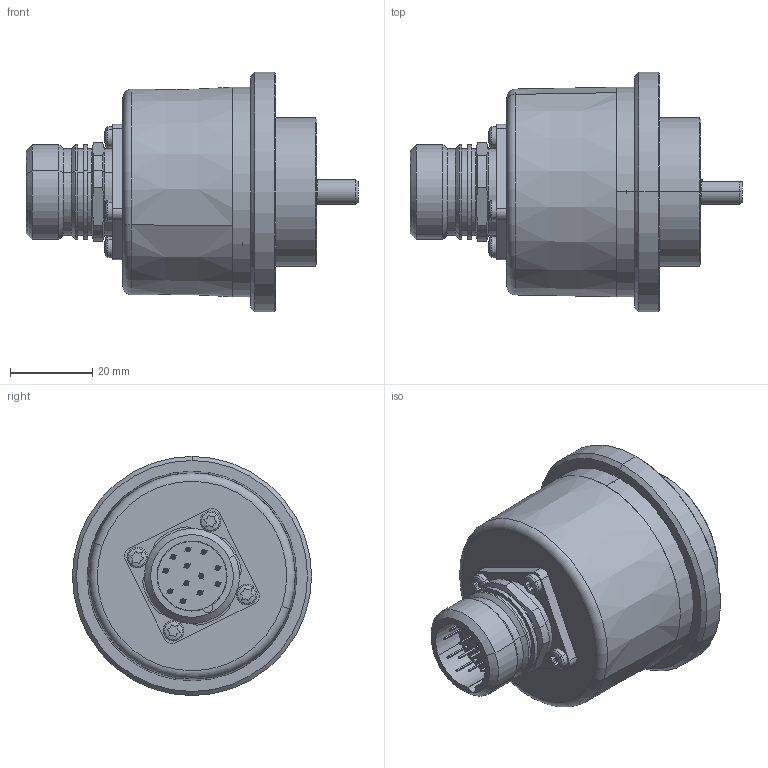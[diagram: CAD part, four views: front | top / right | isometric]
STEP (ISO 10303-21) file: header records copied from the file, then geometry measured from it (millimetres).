
FILE_DESCRIPTION (( 'STEP AP214' ), '1' );
FILE_NAME ('5000.81X7.XXXX.STEP', '2008-12-03T07:30:03', ( 'admin' ), ( 'Fritz Kübler GmbH' ), 'SwSTEP 2.0', 'SolidWorks 2008', '' );
FILE_SCHEMA (( 'AUTOMOTIVE_DESIGN' ));
Length unit declared in the file: millimetre
Products named in the file (1): 5000.81X7.XXXX
Bounding box: 80.5 x 58 x 58 mm (x, y, z)
Volume: 53330.4 mm3; surface area: 37221.4 mm2
Topology: 22 solids, 25 shells, 869 faces, 1963 edges, 1178 vertices
Faces by surface type: cylinder 351, plane 203, cone 145, torus 99, sphere 59, bspline 12
Entity records: 34776 total; most frequent: CARTESIAN_POINT 5217, DIRECTION 4647, ORIENTED_EDGE 3746, AXIS2_PLACEMENT_3D 1996, EDGE_CURVE 1873, VERTEX_POINT 1148, CIRCLE 1138, EDGE_LOOP 1029
